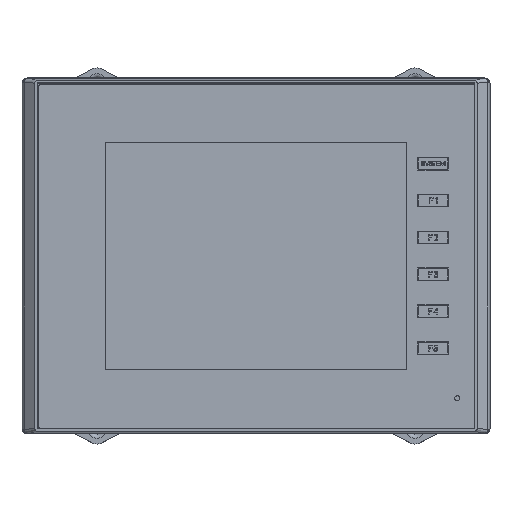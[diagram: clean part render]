
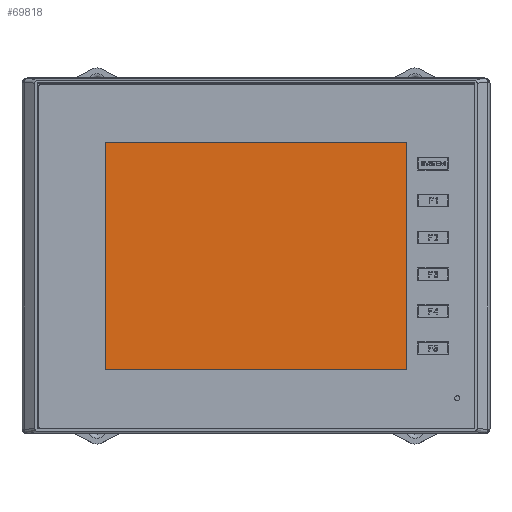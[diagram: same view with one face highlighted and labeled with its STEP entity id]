
A CAD part, top view. The second image highlights one B-rep face of the part: STEP entity #69818.
In plain terms, the highlighted planar face has unit normal (0, 0, 1).
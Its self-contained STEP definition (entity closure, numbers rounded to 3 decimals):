
#22445=DIRECTION('',(-1.,0.,0.));
#22446=VECTOR('',#22445,117.3);
#22447=CARTESIAN_POINT('',(58.65,44.25,5.738));
#22448=LINE('',#22447,#22446);
#22449=DIRECTION('',(0.,1.,0.));
#22450=VECTOR('',#22449,88.5);
#22451=CARTESIAN_POINT('',(58.65,-44.25,5.738));
#22452=LINE('',#22451,#22450);
#22453=DIRECTION('',(1.,0.,0.));
#22454=VECTOR('',#22453,117.3);
#22455=CARTESIAN_POINT('',(-58.65,-44.25,5.738));
#22456=LINE('',#22455,#22454);
#22457=DIRECTION('',(0.,-1.,0.));
#22458=VECTOR('',#22457,88.5);
#22459=CARTESIAN_POINT('',(-58.65,44.25,5.738));
#22460=LINE('',#22459,#22458);
#39607=CARTESIAN_POINT('',(58.65,44.25,5.738));
#39608=CARTESIAN_POINT('',(-58.65,44.25,5.738));
#39609=VERTEX_POINT('',#39607);
#39610=VERTEX_POINT('',#39608);
#39611=CARTESIAN_POINT('',(-58.65,-44.25,5.738));
#39612=VERTEX_POINT('',#39611);
#39613=CARTESIAN_POINT('',(58.65,-44.25,5.738));
#39614=VERTEX_POINT('',#39613);
#69807=CARTESIAN_POINT('',(0.,0.,5.738));
#69808=DIRECTION('',(0.,0.,1.));
#69809=DIRECTION('',(1.,0.,0.));
#69810=AXIS2_PLACEMENT_3D('',#69807,#69808,#69809);
#69811=PLANE('',#69810);
#69812=ORIENTED_EDGE('',*,*,#69759,.F.);
#69813=ORIENTED_EDGE('',*,*,#69774,.F.);
#69814=ORIENTED_EDGE('',*,*,#69788,.F.);
#69815=ORIENTED_EDGE('',*,*,#69801,.F.);
#69816=EDGE_LOOP('',(#69812,#69813,#69814,#69815));
#69817=FACE_OUTER_BOUND('',#69816,.F.);
#69818=ADVANCED_FACE('',(#69817),#69811,.T.);
#69759=EDGE_CURVE('',#39609,#39610,#22448,.T.);
#69774=EDGE_CURVE('',#39614,#39609,#22452,.T.);
#69788=EDGE_CURVE('',#39612,#39614,#22456,.T.);
#69801=EDGE_CURVE('',#39610,#39612,#22460,.T.);
